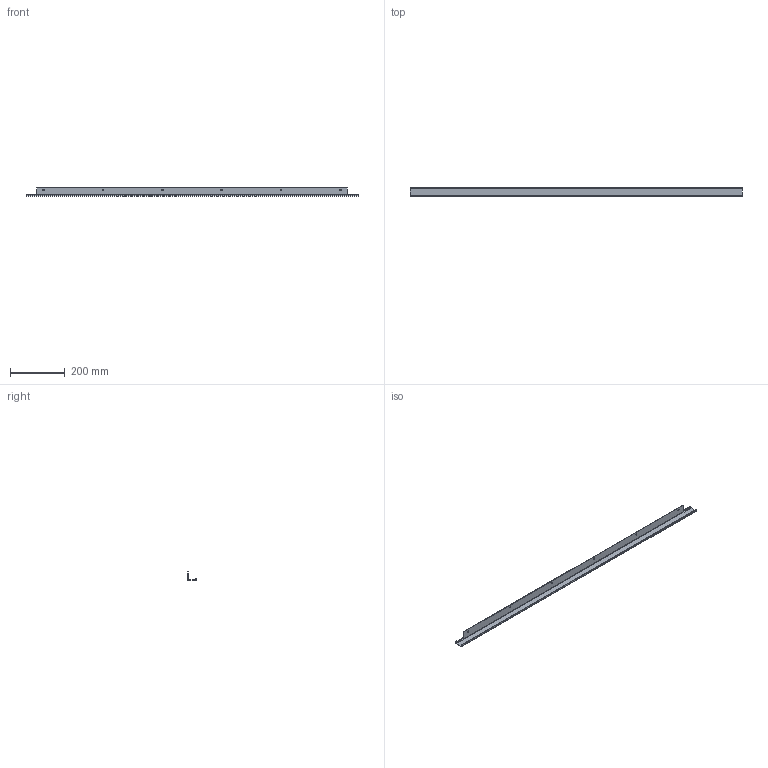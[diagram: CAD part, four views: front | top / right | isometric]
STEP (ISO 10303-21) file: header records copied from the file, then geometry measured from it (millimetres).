
FILE_DESCRIPTION (( 'STEP AP203' ), '1' );
FILE_NAME ('adk48hh.STEP', '2014-01-08T21:38:45', ( 'User' ), ( 'Pentair Inc' ), 'SwSTEP 2.0', 'SolidWorks 2010', '' );
FILE_SCHEMA (( 'CONFIG_CONTROL_DESIGN' ));
Length unit declared in the file: inch
Products named in the file (2): 89100644; adk48hh
Assembly tree (1 placements, depth 2):
  adk48hh
    89100644
Bounding box: 1216.03 x 31.1 x 32.62 mm (x, y, z)
Volume: 142724.6 mm3; surface area: 160959.8 mm2
Topology: 1 solids, 1 shells, 44 faces, 110 edges, 68 vertices
Faces by surface type: cylinder 22, plane 22
Entity records: 1534 total; most frequent: DIRECTION 250, CARTESIAN_POINT 226, ORIENTED_EDGE 220, EDGE_CURVE 110, AXIS2_PLACEMENT_3D 92, VERTEX_POINT 68, LINE 66, VECTOR 66
